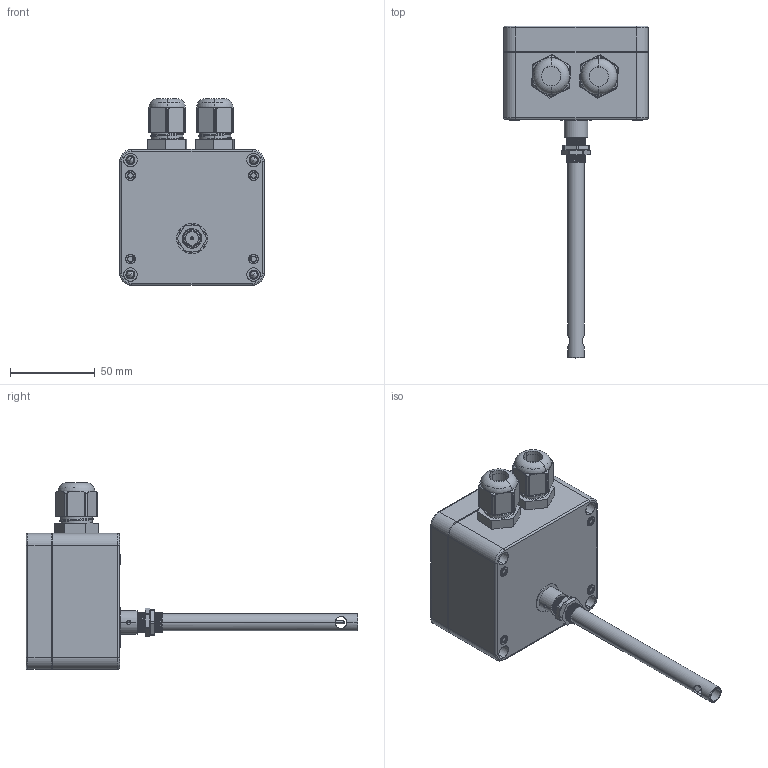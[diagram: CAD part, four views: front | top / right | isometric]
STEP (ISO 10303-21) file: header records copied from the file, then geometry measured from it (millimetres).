
FILE_DESCRIPTION (( 'STEP AP203' ), '1' );
FILE_NAME ('130MM... Assem1.STEP', '2023-01-02T18:07:41', ( '' ), ( '' ), 'SwSTEP 2.0', 'SolidWorks 2019', '' );
FILE_SCHEMA (( 'CONFIG_CONTROL_DESIGN' ));
Length unit declared in the file: millimetre
Products named in the file (5): Part1.STEP; Part2 screw.STEP; 130MM... Assem1; PLUG.STEP; TUBE 130 MM LENTH - ....STEP
Assembly tree (8 placements, depth 2):
  130MM... Assem1
    Part1.STEP
    Part2 screw.STEP  x4
    PLUG.STEP  x2
    TUBE 130 MM LENTH - ....STEP
Bounding box: 85 x 195.3 x 109.79 mm (x, y, z)
Volume: 331404.7 mm3; surface area: 90382.5 mm2
Topology: 18 solids, 19 shells, 885 faces, 2417 edges, 1579 vertices
Faces by surface type: cylinder 496, plane 296, torus 54, bspline 29, cone 10
Entity records: 27371 total; most frequent: CARTESIAN_POINT 15834, ORIENTED_EDGE 2470, DIRECTION 2137, EDGE_CURVE 1235, VERTEX_POINT 802, AXIS2_PLACEMENT_3D 796, LINE 545, VECTOR 545
